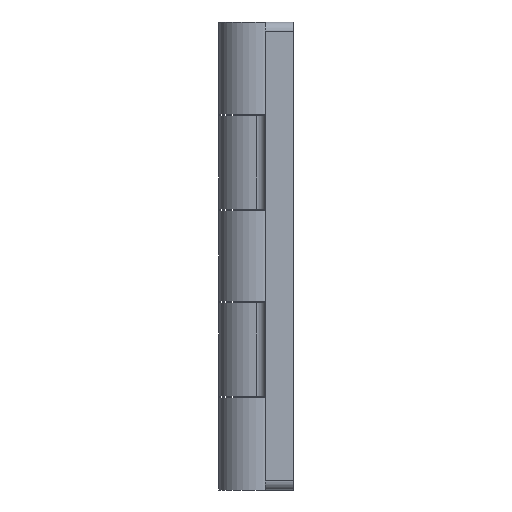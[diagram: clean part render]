
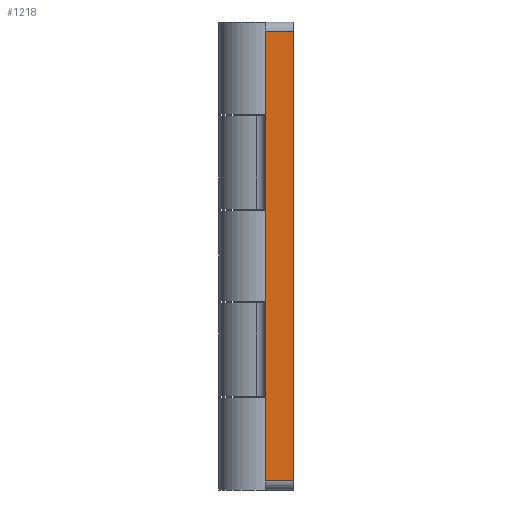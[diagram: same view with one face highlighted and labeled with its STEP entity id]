
A CAD part, left-side view. The second image highlights one B-rep face of the part: STEP entity #1218.
In plain terms, the highlighted planar face has unit normal (-1, 0, 0).
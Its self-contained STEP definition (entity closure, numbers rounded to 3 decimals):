
#517=FACE_OUTER_BOUND('',#3300,.T.);
#1218=ADVANCED_FACE('',(#517),#1969,.F.);
#1969=PLANE('',#13448);
#3300=EDGE_LOOP('',(#4460,#4461,#4462,#4463));
#4460=ORIENTED_EDGE('',*,*,#9564,.T.);
#4461=ORIENTED_EDGE('',*,*,#9606,.T.);
#4462=ORIENTED_EDGE('',*,*,#9607,.F.);
#4463=ORIENTED_EDGE('',*,*,#9608,.T.);
#8286=VERTEX_POINT('',#18258);
#8287=VERTEX_POINT('',#18260);
#8326=VERTEX_POINT('',#18343);
#8327=VERTEX_POINT('',#18345);
#9564=EDGE_CURVE('',#8287,#8286,#11335,.T.);
#9606=EDGE_CURVE('',#8286,#8326,#11358,.T.);
#9607=EDGE_CURVE('',#8327,#8326,#11359,.T.);
#9608=EDGE_CURVE('',#8327,#8287,#11360,.T.);
#11335=LINE('',#18259,#12414);
#11358=LINE('',#18342,#12437);
#11359=LINE('',#18344,#12438);
#11360=LINE('',#18346,#12439);
#12414=VECTOR('',#14523,1.);
#12437=VECTOR('',#14588,1.);
#12438=VECTOR('',#14589,1.);
#12439=VECTOR('',#14590,1.);
#13448=AXIS2_PLACEMENT_3D('',#18347,#14591,#14592);
#14523=DIRECTION('',(0.,0.,1.));
#14588=DIRECTION('',(0.,1.,0.));
#14589=DIRECTION('',(0.,0.,1.));
#14590=DIRECTION('',(0.,-1.,0.));
#14591=DIRECTION('',(1.,0.,0.));
#14592=DIRECTION('',(0.,0.,-1.));
#18258=CARTESIAN_POINT('',(-50.,0.,48.));
#18259=CARTESIAN_POINT('',(-50.,0.,-50.));
#18260=CARTESIAN_POINT('',(-50.,0.,-48.));
#18342=CARTESIAN_POINT('',(-50.,0.,48.));
#18343=CARTESIAN_POINT('',(-50.,6.,48.));
#18344=CARTESIAN_POINT('',(-50.,6.,-50.));
#18345=CARTESIAN_POINT('',(-50.,6.,-48.));
#18346=CARTESIAN_POINT('',(-50.,0.,-48.));
#18347=CARTESIAN_POINT('',(-50.,0.,-50.));
